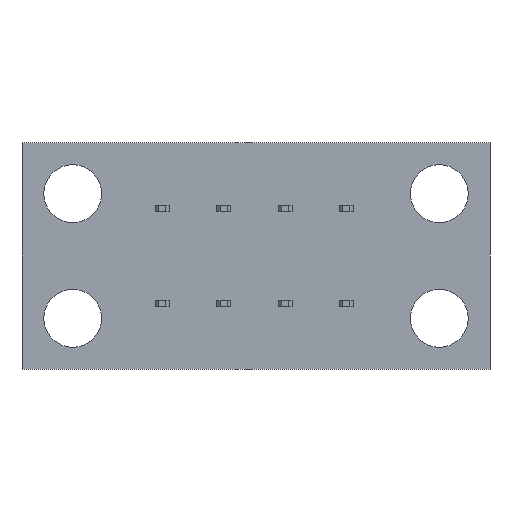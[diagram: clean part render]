
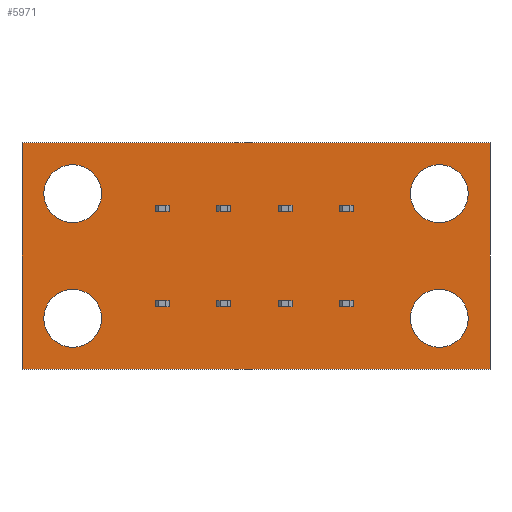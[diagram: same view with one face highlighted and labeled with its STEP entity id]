
A CAD part, front view. The second image highlights one B-rep face of the part: STEP entity #5971.
In plain terms, the highlighted planar face has unit normal (0, -1, 0).
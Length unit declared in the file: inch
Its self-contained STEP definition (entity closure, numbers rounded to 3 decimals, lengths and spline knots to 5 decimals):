
#39 = AXIS2_PLACEMENT_3D ( 'NONE', #12644, #12660, #12677 ) ;
#85 = DIRECTION ( 'NONE',  ( 0., 0., -1. ) ) ;
#111 = CARTESIAN_POINT ( 'NONE',  ( 0.5255, 0., -0.254 ) ) ;
#283 = EDGE_CURVE ( 'NONE', #11694, #5302, #4595, .T. ) ;
#339 = ORIENTED_EDGE ( 'NONE', *, *, #6551, .T. ) ;
#347 = ORIENTED_EDGE ( 'NONE', *, *, #283, .T. ) ;
#861 = EDGE_LOOP ( 'NONE', ( #2224, #12010 ) ) ;
#969 = CIRCLE ( 'NONE', #1714, 0.065 ) ;
#977 = CIRCLE ( 'NONE', #8670, 0.065 ) ;
#1206 = EDGE_CURVE ( 'NONE', #10493, #2387, #7610, .T. ) ;
#1232 = ORIENTED_EDGE ( 'NONE', *, *, #10932, .F. ) ;
#1263 = CARTESIAN_POINT ( 'NONE',  ( 0.4115, 0., 0.205 ) ) ;
#1637 = AXIS2_PLACEMENT_3D ( 'NONE', #5453, #5424, #5413 ) ;
#1713 = CARTESIAN_POINT ( 'NONE',  ( -0.5255, 0., 0.254 ) ) ;
#1714 = AXIS2_PLACEMENT_3D ( 'NONE', #9545, #9533, #9483 ) ;
#2018 = ORIENTED_EDGE ( 'NONE', *, *, #2927, .F. ) ;
#2152 = ORIENTED_EDGE ( 'NONE', *, *, #3729, .F. ) ;
#2224 = ORIENTED_EDGE ( 'NONE', *, *, #4829, .F. ) ;
#2227 = DIRECTION ( 'NONE',  ( 0., 0., 1. ) ) ;
#2310 = CARTESIAN_POINT ( 'NONE',  ( -0.4115, 0., -0.14 ) ) ;
#2387 = VERTEX_POINT ( 'NONE', #9729 ) ;
#2407 = DIRECTION ( 'NONE',  ( 1., 0., 0. ) ) ;
#2657 = VECTOR ( 'NONE', #4282, 39.37008 ) ;
#2786 = CARTESIAN_POINT ( 'NONE',  ( -0.4115, 0., -0.205 ) ) ;
#2830 = LINE ( 'NONE', #5235, #2657 ) ;
#2839 = CARTESIAN_POINT ( 'NONE',  ( -0.4115, 0., -0.075 ) ) ;
#2842 = ORIENTED_EDGE ( 'NONE', *, *, #6605, .F. ) ;
#2927 = EDGE_CURVE ( 'NONE', #6667, #3496, #5570, .T. ) ;
#3001 = EDGE_CURVE ( 'NONE', #5302, #11694, #3724, .T. ) ;
#3016 = EDGE_LOOP ( 'NONE', ( #6542, #347 ) ) ;
#3047 = CARTESIAN_POINT ( 'NONE',  ( 0.4115, 0., -0.205 ) ) ;
#3117 = DIRECTION ( 'NONE',  ( 0., 1., 0. ) ) ;
#3324 = CARTESIAN_POINT ( 'NONE',  ( 0.5255, 0., 0.254 ) ) ;
#3496 = VERTEX_POINT ( 'NONE', #1263 ) ;
#3724 = CIRCLE ( 'NONE', #10562, 0.065 ) ;
#3729 = EDGE_CURVE ( 'NONE', #12413, #6803, #9146, .T. ) ;
#3923 = VECTOR ( 'NONE', #2407, 39.37008 ) ;
#3932 = EDGE_LOOP ( 'NONE', ( #339, #4388 ) ) ;
#3955 = LINE ( 'NONE', #6291, #3923 ) ;
#4282 = DIRECTION ( 'NONE',  ( -1., 0., 0. ) ) ;
#4363 = AXIS2_PLACEMENT_3D ( 'NONE', #12333, #12302, #12247 ) ;
#4388 = ORIENTED_EDGE ( 'NONE', *, *, #7959, .T. ) ;
#4595 = CIRCLE ( 'NONE', #11885, 0.065 ) ;
#4621 = CARTESIAN_POINT ( 'NONE',  ( 0.5255, 0., -0.254 ) ) ;
#4829 = EDGE_CURVE ( 'NONE', #2387, #10493, #977, .T. ) ;
#4874 = DIRECTION ( 'NONE',  ( 0., 0., 1. ) ) ;
#4885 = DIRECTION ( 'NONE',  ( 0., 1., 0. ) ) ;
#4891 = CARTESIAN_POINT ( 'NONE',  ( -0.4115, 0., -0.14 ) ) ;
#5235 = CARTESIAN_POINT ( 'NONE',  ( -0.5255, 0., -0.254 ) ) ;
#5302 = VERTEX_POINT ( 'NONE', #2839 ) ;
#5383 = ORIENTED_EDGE ( 'NONE', *, *, #7492, .F. ) ;
#5413 = DIRECTION ( 'NONE',  ( 0., 0., 1. ) ) ;
#5424 = DIRECTION ( 'NONE',  ( 0., -1., 0. ) ) ;
#5453 = CARTESIAN_POINT ( 'NONE',  ( 0.4115, 0., 0.14 ) ) ;
#5531 = DIRECTION ( 'NONE',  ( 0., 0., 1. ) ) ;
#5535 = CARTESIAN_POINT ( 'NONE',  ( -0.5255, 0., -0.254 ) ) ;
#5547 = DIRECTION ( 'NONE',  ( 0., -1., 0. ) ) ;
#5570 = CIRCLE ( 'NONE', #1637, 0.065 ) ;
#5585 = CARTESIAN_POINT ( 'NONE',  ( 0.4115, 0., 0.14 ) ) ;
#5849 = LINE ( 'NONE', #5535, #5859 ) ;
#5859 = VECTOR ( 'NONE', #6213, 39.37008 ) ;
#5942 = CARTESIAN_POINT ( 'NONE',  ( 0.4115, 0., 0.075 ) ) ;
#5971 = ADVANCED_FACE ( 'NONE', ( #8739, #8651, #8684, #8695, #8635 ), #8223, .F. ) ;
#6161 = CIRCLE ( 'NONE', #10179, 0.065 ) ;
#6213 = DIRECTION ( 'NONE',  ( 0., 0., 1. ) ) ;
#6291 = CARTESIAN_POINT ( 'NONE',  ( -0.5255, 0., 0.254 ) ) ;
#6517 = VERTEX_POINT ( 'NONE', #8028 ) ;
#6523 = VERTEX_POINT ( 'NONE', #7694 ) ;
#6542 = ORIENTED_EDGE ( 'NONE', *, *, #3001, .T. ) ;
#6551 = EDGE_CURVE ( 'NONE', #6523, #11081, #6161, .T. ) ;
#6605 = EDGE_CURVE ( 'NONE', #6517, #7185, #5849, .T. ) ;
#6667 = VERTEX_POINT ( 'NONE', #5942 ) ;
#6684 = DIRECTION ( 'NONE',  ( 0., 0., 1. ) ) ;
#6710 = DIRECTION ( 'NONE',  ( 0., 1., 0. ) ) ;
#6725 = CARTESIAN_POINT ( 'NONE',  ( -0.4115, 0., 0.14 ) ) ;
#6803 = VERTEX_POINT ( 'NONE', #4621 ) ;
#6806 = DIRECTION ( 'NONE',  ( 0., 0., 1. ) ) ;
#6809 = DIRECTION ( 'NONE',  ( 0., -1., 0. ) ) ;
#6815 = CARTESIAN_POINT ( 'NONE',  ( 0.4115, 0., -0.14 ) ) ;
#7051 = EDGE_LOOP ( 'NONE', ( #9956, #2018 ) ) ;
#7185 = VERTEX_POINT ( 'NONE', #1713 ) ;
#7492 = EDGE_CURVE ( 'NONE', #6803, #6517, #2830, .T. ) ;
#7610 = CIRCLE ( 'NONE', #39, 0.065 ) ;
#7694 = CARTESIAN_POINT ( 'NONE',  ( -0.4115, 0., 0.205 ) ) ;
#7959 = EDGE_CURVE ( 'NONE', #11081, #6523, #969, .T. ) ;
#8028 = CARTESIAN_POINT ( 'NONE',  ( -0.5255, 0., -0.254 ) ) ;
#8223 = PLANE ( 'NONE',  #4363 ) ;
#8339 = EDGE_LOOP ( 'NONE', ( #2842, #5383, #2152, #1232 ) ) ;
#8635 = FACE_OUTER_BOUND ( 'NONE', #8339, .T. ) ;
#8651 = FACE_BOUND ( 'NONE', #861, .T. ) ;
#8670 = AXIS2_PLACEMENT_3D ( 'NONE', #6815, #6809, #6806 ) ;
#8684 = FACE_BOUND ( 'NONE', #3932, .T. ) ;
#8695 = FACE_BOUND ( 'NONE', #3016, .T. ) ;
#8739 = FACE_BOUND ( 'NONE', #7051, .T. ) ;
#9019 = VECTOR ( 'NONE', #85, 39.37008 ) ;
#9146 = LINE ( 'NONE', #111, #9019 ) ;
#9483 = DIRECTION ( 'NONE',  ( 0., 0., 1. ) ) ;
#9533 = DIRECTION ( 'NONE',  ( 0., 1., 0. ) ) ;
#9545 = CARTESIAN_POINT ( 'NONE',  ( -0.4115, 0., 0.14 ) ) ;
#9729 = CARTESIAN_POINT ( 'NONE',  ( 0.4115, 0., -0.075 ) ) ;
#9956 = ORIENTED_EDGE ( 'NONE', *, *, #12273, .F. ) ;
#10179 = AXIS2_PLACEMENT_3D ( 'NONE', #6725, #6710, #6684 ) ;
#10493 = VERTEX_POINT ( 'NONE', #3047 ) ;
#10562 = AXIS2_PLACEMENT_3D ( 'NONE', #4891, #4885, #4874 ) ;
#10593 = AXIS2_PLACEMENT_3D ( 'NONE', #5585, #5547, #5531 ) ;
#10932 = EDGE_CURVE ( 'NONE', #7185, #12413, #3955, .T. ) ;
#11081 = VERTEX_POINT ( 'NONE', #12223 ) ;
#11694 = VERTEX_POINT ( 'NONE', #2786 ) ;
#11885 = AXIS2_PLACEMENT_3D ( 'NONE', #2310, #3117, #2227 ) ;
#11900 = CIRCLE ( 'NONE', #10593, 0.065 ) ;
#12010 = ORIENTED_EDGE ( 'NONE', *, *, #1206, .F. ) ;
#12223 = CARTESIAN_POINT ( 'NONE',  ( -0.4115, 0., 0.075 ) ) ;
#12247 = DIRECTION ( 'NONE',  ( 0., 0., 1. ) ) ;
#12273 = EDGE_CURVE ( 'NONE', #3496, #6667, #11900, .T. ) ;
#12302 = DIRECTION ( 'NONE',  ( 0., 1., 0. ) ) ;
#12333 = CARTESIAN_POINT ( 'NONE',  ( 0., 0., 0. ) ) ;
#12413 = VERTEX_POINT ( 'NONE', #3324 ) ;
#12644 = CARTESIAN_POINT ( 'NONE',  ( 0.4115, 0., -0.14 ) ) ;
#12660 = DIRECTION ( 'NONE',  ( 0., -1., 0. ) ) ;
#12677 = DIRECTION ( 'NONE',  ( 0., 0., 1. ) ) ;
